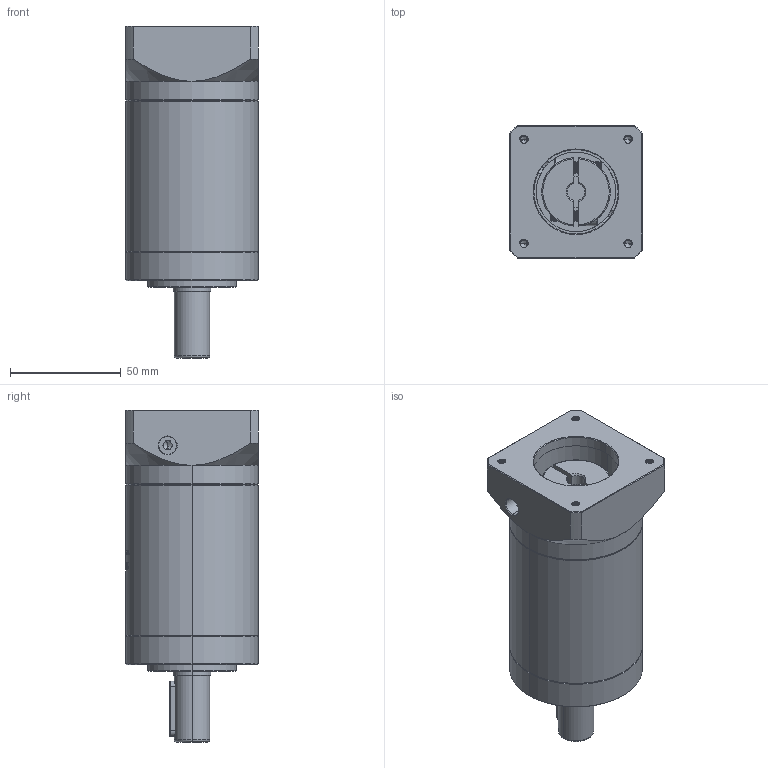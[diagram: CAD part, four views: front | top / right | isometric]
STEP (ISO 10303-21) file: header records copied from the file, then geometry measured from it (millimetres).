
FILE_DESCRIPTION (( 'STEP AP214' ), '1' );
FILE_NAME ('ZE60-D16-L3-8-38.1-47.14X47.14-M4.STEP', '2022-04-17T15:13:45', ( '' ), ( 'Microsoft' ), 'SwSTEP 2.0', 'SolidWorks 2016', '' );
FILE_SCHEMA (( 'AUTOMOTIVE_DESIGN' ));
Length unit declared in the file: millimetre
Products named in the file (1): ZE60-D16-L3-8-38.1-47.14X47.14-M4
Bounding box: 60 x 60 x 150 mm (x, y, z)
Volume: 318582.4 mm3; surface area: 49370.2 mm2
Topology: 6 solids, 6 shells, 1699 faces, 4624 edges, 2997 vertices
Faces by surface type: plane 732, cylinder 423, bspline 311, cone 215, torus 18
Entity records: 99771 total; most frequent: CARTESIAN_POINT 42576, ORIENTED_EDGE 9204, DIRECTION 6553, EDGE_CURVE 4602, VERTEX_POINT 2997, LINE 2295, VECTOR 2295, AXIS2_PLACEMENT_3D 2129
